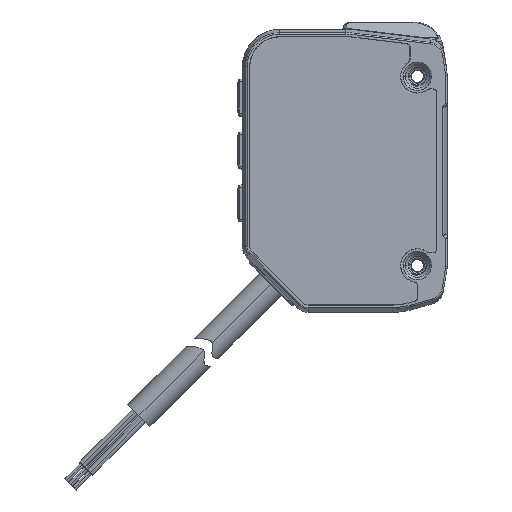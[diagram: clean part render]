
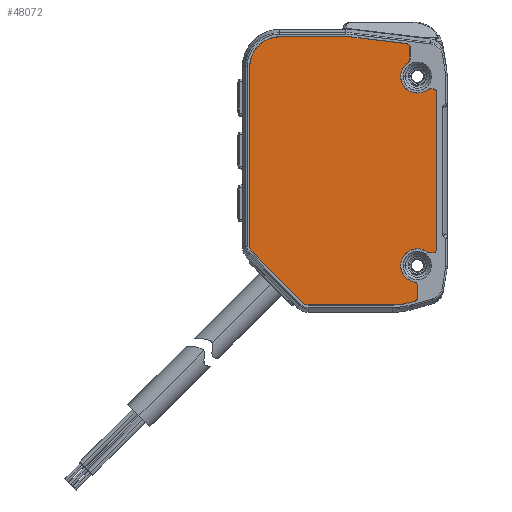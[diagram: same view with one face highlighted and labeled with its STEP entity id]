
A CAD part, top view. The second image highlights one B-rep face of the part: STEP entity #48072.
In plain terms, the highlighted planar face has unit normal (0, 0, 1) as drawn and (0, 1, 0) by its records, which use the part's own axes.
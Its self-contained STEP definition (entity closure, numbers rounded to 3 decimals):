
#47161=CARTESIAN_POINT('',(12.05,0.9,-10.5));
#47162=DIRECTION('',(0.,1.,0.));
#47163=DIRECTION('',(1.,0.,0.));
#47164=AXIS2_PLACEMENT_3D('',#47161,#47162,#47163);
#47169=DIRECTION('',(0.,0.,-1.));
#47170=VECTOR('',#47169,21.);
#47171=CARTESIAN_POINT('',(12.55,0.9,10.5));
#47172=LINE('',#47171,#47170);
#47176=CARTESIAN_POINT('',(12.05,0.9,10.5));
#47177=DIRECTION('',(0.,1.,0.));
#47178=DIRECTION('',(0.,0.,1.));
#47179=AXIS2_PLACEMENT_3D('',#47176,#47177,#47178);
#47184=DIRECTION('',(1.,0.,0.));
#47185=VECTOR('',#47184,0.45);
#47186=CARTESIAN_POINT('',(11.6,0.9,11.));
#47187=LINE('',#47186,#47185);
#47191=CARTESIAN_POINT('',(11.6,0.9,10.5));
#47192=DIRECTION('',(0.,1.,0.));
#47193=DIRECTION('',(-0.6,0.,0.8));
#47194=AXIS2_PLACEMENT_3D('',#47191,#47192,#47193);
#47199=CARTESIAN_POINT('',(9.95,0.9,12.7));
#47200=DIRECTION('',(0.,-1.,0.));
#47201=DIRECTION('',(-0.182,0.,0.983));
#47202=AXIS2_PLACEMENT_3D('',#47199,#47200,#47201);
#47207=CARTESIAN_POINT('',(9.45,0.9,15.404));
#47208=DIRECTION('',(0.,1.,0.));
#47209=DIRECTION('',(1.,0.,0.));
#47210=AXIS2_PLACEMENT_3D('',#47207,#47208,#47209);
#47215=DIRECTION('',(0.,0.,-1.));
#47216=VECTOR('',#47215,1.614);
#47217=CARTESIAN_POINT('',(9.95,0.9,17.018));
#47218=LINE('',#47217,#47216);
#47222=CARTESIAN_POINT('',(9.45,0.9,17.018));
#47223=DIRECTION('',(0.,1.,0.));
#47224=DIRECTION('',(0.271,0.,0.962));
#47225=AXIS2_PLACEMENT_3D('',#47222,#47223,#47224);
#47230=DIRECTION('',(0.962,0.,-0.271));
#47231=VECTOR('',#47230,0.598);
#47232=CARTESIAN_POINT('',(9.01,0.9,17.662));
#47233=LINE('',#47232,#47231);
#47237=CARTESIAN_POINT('',(6.567,0.9,9.));
#47238=DIRECTION('',(0.,1.,0.));
#47239=DIRECTION('',(0.,0.,1.));
#47240=AXIS2_PLACEMENT_3D('',#47237,#47238,#47239);
#47245=DIRECTION('',(1.,0.,0.));
#47246=VECTOR('',#47245,11.288);
#47247=CARTESIAN_POINT('',(-4.722,0.9,18.));
#47248=LINE('',#47247,#47246);
#47252=CARTESIAN_POINT('',(-4.722,0.9,17.));
#47253=DIRECTION('',(0.,1.,0.));
#47254=DIRECTION('',(-0.707,0.,0.707));
#47255=AXIS2_PLACEMENT_3D('',#47252,#47253,#47254);
#47260=DIRECTION('',(0.707,0.,0.707));
#47261=VECTOR('',#47260,9.657);
#47262=CARTESIAN_POINT('',(-12.257,0.9,10.879));
#47263=LINE('',#47262,#47261);
#47267=CARTESIAN_POINT('',(-11.55,0.9,10.172));
#47268=DIRECTION('',(0.,1.,0.));
#47269=DIRECTION('',(-1.,0.,0.));
#47270=AXIS2_PLACEMENT_3D('',#47267,#47268,#47269);
#47275=DIRECTION('',(0.,0.,1.));
#47276=VECTOR('',#47275,24.172);
#47277=CARTESIAN_POINT('',(-12.55,0.9,-14.));
#47278=LINE('',#47277,#47276);
#47282=CARTESIAN_POINT('',(-8.55,0.9,-14.));
#47283=DIRECTION('',(0.,1.,0.));
#47284=DIRECTION('',(0.,0.,-1.));
#47285=AXIS2_PLACEMENT_3D('',#47282,#47283,#47284);
#47290=DIRECTION('',(-1.,0.,0.));
#47291=VECTOR('',#47290,9.44);
#47292=CARTESIAN_POINT('',(0.89,0.9,-18.));
#47293=LINE('',#47292,#47291);
#47297=DIRECTION('',(-0.993,0.,-0.12));
#47298=VECTOR('',#47297,7.676);
#47299=CARTESIAN_POINT('',(8.51,0.9,-17.079));
#47300=LINE('',#47299,#47298);
#47304=CARTESIAN_POINT('',(8.45,0.9,-16.583));
#47305=DIRECTION('',(0.,1.,0.));
#47306=DIRECTION('',(1.,0.,0.));
#47307=AXIS2_PLACEMENT_3D('',#47304,#47305,#47306);
#47312=DIRECTION('',(0.,0.,-1.));
#47313=VECTOR('',#47312,1.578);
#47314=CARTESIAN_POINT('',(8.95,0.9,-15.005));
#47315=LINE('',#47314,#47313);
#47319=CARTESIAN_POINT('',(8.45,0.9,-15.005));
#47320=DIRECTION('',(0.,1.,0.));
#47321=DIRECTION('',(0.545,0.,0.838));
#47322=AXIS2_PLACEMENT_3D('',#47319,#47320,#47321);
#47327=CARTESIAN_POINT('',(9.95,0.9,-12.7));
#47328=DIRECTION('',(0.,-1.,0.));
#47329=DIRECTION('',(0.6,0.,0.8));
#47330=AXIS2_PLACEMENT_3D('',#47327,#47328,#47329);
#47335=CARTESIAN_POINT('',(11.6,0.9,-10.5));
#47336=DIRECTION('',(0.,1.,0.));
#47337=DIRECTION('',(0.,0.,-1.));
#47338=AXIS2_PLACEMENT_3D('',#47335,#47336,#47337);
#47343=DIRECTION('',(-1.,0.,0.));
#47344=VECTOR('',#47343,0.45);
#47345=CARTESIAN_POINT('',(12.05,0.9,-11.));
#47346=LINE('',#47345,#47344);
#47368=CARTESIAN_POINT('',(-8.55,0.9,-18.));
#47369=CARTESIAN_POINT('',(-12.55,0.9,-14.));
#47370=VERTEX_POINT('',#47368);
#47371=VERTEX_POINT('',#47369);
#47372=CARTESIAN_POINT('',(-12.55,0.9,10.172));
#47373=VERTEX_POINT('',#47372);
#47374=CARTESIAN_POINT('',(-12.257,0.9,10.879));
#47375=VERTEX_POINT('',#47374);
#47376=CARTESIAN_POINT('',(-5.429,0.9,17.707));
#47377=VERTEX_POINT('',#47376);
#47378=CARTESIAN_POINT('',(-4.722,0.9,18.));
#47379=VERTEX_POINT('',#47378);
#47380=CARTESIAN_POINT('',(6.567,0.9,18.));
#47381=VERTEX_POINT('',#47380);
#47382=CARTESIAN_POINT('',(9.01,0.9,17.662));
#47383=VERTEX_POINT('',#47382);
#47384=CARTESIAN_POINT('',(0.89,0.9,-18.));
#47385=VERTEX_POINT('',#47384);
#47390=CARTESIAN_POINT('',(12.55,0.9,-10.5));
#47391=VERTEX_POINT('',#47390);
#47392=CARTESIAN_POINT('',(12.05,0.9,-11.));
#47393=VERTEX_POINT('',#47392);
#47398=CARTESIAN_POINT('',(12.55,0.9,10.5));
#47399=VERTEX_POINT('',#47398);
#47400=CARTESIAN_POINT('',(11.6,0.9,-11.));
#47401=VERTEX_POINT('',#47400);
#47404=CARTESIAN_POINT('',(12.05,0.9,11.));
#47405=VERTEX_POINT('',#47404);
#47410=CARTESIAN_POINT('',(9.95,0.9,15.404));
#47411=VERTEX_POINT('',#47410);
#47412=CARTESIAN_POINT('',(9.541,0.9,14.912));
#47413=VERTEX_POINT('',#47412);
#47420=CARTESIAN_POINT('',(9.95,0.9,17.018));
#47421=VERTEX_POINT('',#47420);
#47422=CARTESIAN_POINT('',(11.3,0.9,10.9));
#47423=VERTEX_POINT('',#47422);
#47424=CARTESIAN_POINT('',(11.6,0.9,11.));
#47425=VERTEX_POINT('',#47424);
#47430=CARTESIAN_POINT('',(8.95,0.9,-16.583));
#47431=VERTEX_POINT('',#47430);
#47432=CARTESIAN_POINT('',(8.51,0.9,-17.079));
#47433=VERTEX_POINT('',#47432);
#47436=CARTESIAN_POINT('',(9.586,0.9,17.5));
#47437=VERTEX_POINT('',#47436);
#47440=CARTESIAN_POINT('',(8.95,0.9,-15.005));
#47441=VERTEX_POINT('',#47440);
#47444=CARTESIAN_POINT('',(8.723,0.9,-14.586));
#47445=VERTEX_POINT('',#47444);
#47448=CARTESIAN_POINT('',(11.3,0.9,-10.9));
#47449=VERTEX_POINT('',#47448);
#48040=CARTESIAN_POINT('',(0.,0.9,0.));
#48041=DIRECTION('',(0.,1.,0.));
#48042=DIRECTION('',(1.,0.,0.));
#48043=AXIS2_PLACEMENT_3D('',#48040,#48041,#48042);
#48044=PLANE('',#48043);
#48045=ORIENTED_EDGE('',*,*,#47523,.F.);
#48046=ORIENTED_EDGE('',*,*,#47546,.F.);
#48047=ORIENTED_EDGE('',*,*,#47566,.F.);
#48048=ORIENTED_EDGE('',*,*,#47588,.F.);
#48049=ORIENTED_EDGE('',*,*,#47608,.F.);
#48050=ORIENTED_EDGE('',*,*,#47628,.F.);
#48051=ORIENTED_EDGE('',*,*,#47650,.F.);
#48052=ORIENTED_EDGE('',*,*,#47672,.F.);
#48053=ORIENTED_EDGE('',*,*,#47692,.F.);
#48054=ORIENTED_EDGE('',*,*,#47714,.F.);
#48055=ORIENTED_EDGE('',*,*,#47734,.F.);
#48056=ORIENTED_EDGE('',*,*,#47755,.F.);
#48057=ORIENTED_EDGE('',*,*,#47776,.F.);
#48058=ORIENTED_EDGE('',*,*,#47797,.F.);
#48059=ORIENTED_EDGE('',*,*,#47818,.F.);
#48060=ORIENTED_EDGE('',*,*,#47839,.F.);
#48061=ORIENTED_EDGE('',*,*,#47860,.F.);
#48062=ORIENTED_EDGE('',*,*,#47881,.F.);
#48063=ORIENTED_EDGE('',*,*,#47901,.F.);
#48064=ORIENTED_EDGE('',*,*,#47923,.F.);
#48065=ORIENTED_EDGE('',*,*,#47945,.F.);
#48066=ORIENTED_EDGE('',*,*,#47965,.F.);
#48067=ORIENTED_EDGE('',*,*,#47987,.F.);
#48068=ORIENTED_EDGE('',*,*,#48007,.F.);
#48069=ORIENTED_EDGE('',*,*,#48026,.F.);
#48070=EDGE_LOOP('',(#48045,#48046,#48047,#48048,#48049,#48050,#48051,#48052,
#48053,#48054,#48055,#48056,#48057,#48058,#48059,#48060,#48061,#48062,#48063,
#48064,#48065,#48066,#48067,#48068,#48069));
#48071=FACE_OUTER_BOUND('',#48070,.F.);
#48072=ADVANCED_FACE('',(#48071),#48044,.T.);
#47165=CIRCLE('',#47164,0.5);
#47180=CIRCLE('',#47179,0.5);
#47195=CIRCLE('',#47194,0.5);
#47203=CIRCLE('',#47202,2.25);
#47211=CIRCLE('',#47210,0.5);
#47226=CIRCLE('',#47225,0.5);
#47241=CIRCLE('',#47240,9.);
#47256=CIRCLE('',#47255,1.);
#47271=CIRCLE('',#47270,1.);
#47286=CIRCLE('',#47285,4.);
#47308=CIRCLE('',#47307,0.5);
#47323=CIRCLE('',#47322,0.5);
#47331=CIRCLE('',#47330,2.25);
#47339=CIRCLE('',#47338,0.5);
#47523=EDGE_CURVE('',#47391,#47393,#47165,.T.);
#47546=EDGE_CURVE('',#47399,#47391,#47172,.T.);
#47566=EDGE_CURVE('',#47405,#47399,#47180,.T.);
#47588=EDGE_CURVE('',#47425,#47405,#47187,.T.);
#47608=EDGE_CURVE('',#47423,#47425,#47195,.T.);
#47628=EDGE_CURVE('',#47413,#47423,#47203,.T.);
#47650=EDGE_CURVE('',#47411,#47413,#47211,.T.);
#47672=EDGE_CURVE('',#47421,#47411,#47218,.T.);
#47692=EDGE_CURVE('',#47437,#47421,#47226,.T.);
#47714=EDGE_CURVE('',#47383,#47437,#47233,.T.);
#47734=EDGE_CURVE('',#47381,#47383,#47241,.T.);
#47755=EDGE_CURVE('',#47379,#47381,#47248,.T.);
#47776=EDGE_CURVE('',#47377,#47379,#47256,.T.);
#47797=EDGE_CURVE('',#47375,#47377,#47263,.T.);
#47818=EDGE_CURVE('',#47373,#47375,#47271,.T.);
#47839=EDGE_CURVE('',#47371,#47373,#47278,.T.);
#47860=EDGE_CURVE('',#47370,#47371,#47286,.T.);
#47881=EDGE_CURVE('',#47385,#47370,#47293,.T.);
#47901=EDGE_CURVE('',#47433,#47385,#47300,.T.);
#47923=EDGE_CURVE('',#47431,#47433,#47308,.T.);
#47945=EDGE_CURVE('',#47441,#47431,#47315,.T.);
#47965=EDGE_CURVE('',#47445,#47441,#47323,.T.);
#47987=EDGE_CURVE('',#47449,#47445,#47331,.T.);
#48007=EDGE_CURVE('',#47401,#47449,#47339,.T.);
#48026=EDGE_CURVE('',#47393,#47401,#47346,.T.);
